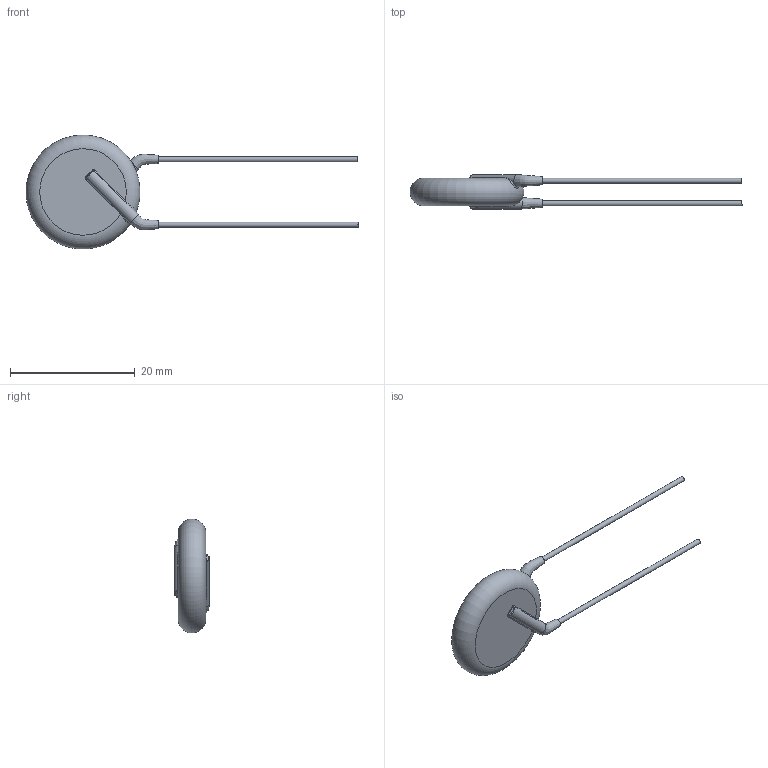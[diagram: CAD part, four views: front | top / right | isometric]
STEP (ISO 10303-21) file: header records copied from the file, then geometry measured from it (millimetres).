
FILE_DESCRIPTION(/* description */ (''),/* implementation_level */ '2;1');
FILE_NAME(/* name */ 'I:\Marketing\M6t1\3D-Models\Zchng-Werk-3\Upload for homepage\Ceramite\Y5U\440LD80-R\440LD80-R.stp',/* time_stamp */ '2016-11-10T14:58:45+01:00',/* author */ ('sheinrich'),/* organization */ (''),/* preprocessor_version */ 'ST-DEVELOPER v16.1',/* originating_system */ 'Autodesk Inventor 2016',/* authorisation */ '');
FILE_SCHEMA (('AUTOMOTIVE_DESIGN { 1 0 10303 214 3 1 1 }'));
Length unit declared in the file: millimetre
Products named in the file (1): 440LD80-R
Bounding box: 53.3 x 5.6 x 18.29 mm (x, y, z)
Volume: 1118.6 mm3; surface area: 890.9 mm2
Topology: 1 solids, 1 shells, 39 faces, 84 edges, 45 vertices
Faces by surface type: bspline 12, cylinder 12, plane 8, torus 7
Full cylindrical faces by diameter (mm): 0.81 x2
Entity records: 1971 total; most frequent: CARTESIAN_POINT 1154, ORIENTED_EDGE 152, DIRECTION 144, EDGE_CURVE 76, AXIS2_PLACEMENT_3D 66, EDGE_LOOP 44, VERTEX_POINT 44, STYLED_ITEM 40
